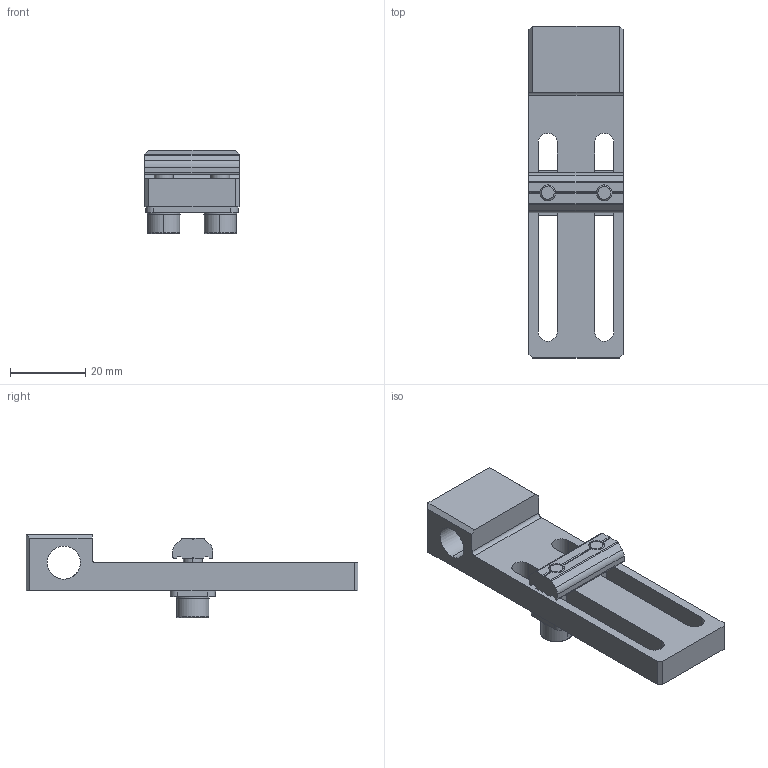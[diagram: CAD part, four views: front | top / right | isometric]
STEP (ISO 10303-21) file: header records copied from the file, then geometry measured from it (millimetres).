
FILE_DESCRIPTION (( 'STEP AP214' ), '1' );
FILE_NAME ('SVC-G14.STEP', '2019-11-07T03:06:09', ( '微软用户' ), ( '微软中国' ), 'SwSTEP 2.0', 'SolidWorks 2016', '' );
FILE_SCHEMA (( 'AUTOMOTIVE_DESIGN' ));
Length unit declared in the file: millimetre
Products named in the file (1): SVC-G14
Bounding box: 25 x 88 x 22.1 mm (x, y, z)
Volume: 16244.2 mm3; surface area: 10756.2 mm2
Topology: 7 solids, 7 shells, 522 faces, 1517 edges, 1004 vertices
Faces by surface type: plane 458, cylinder 56, cone 4, bspline 4
Entity records: 23561 total; most frequent: CARTESIAN_POINT 3554, ORIENTED_EDGE 3034, DIRECTION 2993, EDGE_CURVE 1517, VERTEX_POINT 1004, AXIS2_PLACEMENT_3D 1001, VECTOR 991, LINE 991
